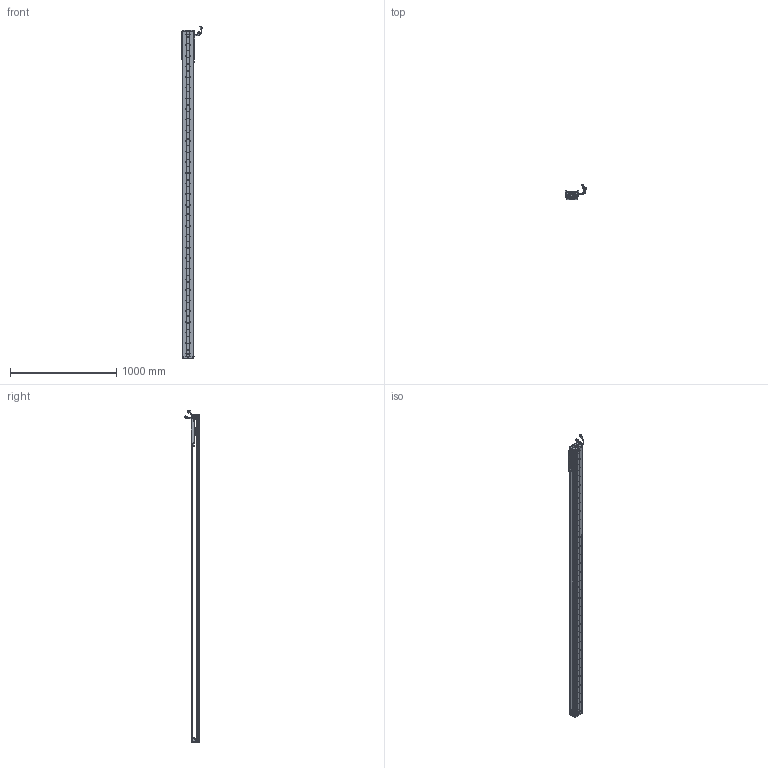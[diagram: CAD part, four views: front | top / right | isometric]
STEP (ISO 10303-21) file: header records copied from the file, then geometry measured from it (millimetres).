
FILE_DESCRIPTION (( 'STEP AP203' ), '1' );
FILE_NAME ('Z3-RY100D-1-L500-B-K.SLDASM_2750.step', '2021-05-17T02:52:54', ( '盈信电脑' ), ( '东莞市道滘镇水果街19号' ), 'SwSTEP 2.0', 'SolidWorks 2016', '' );
FILE_SCHEMA (( 'CONFIG_CONTROL_DESIGN' ));
Length unit declared in the file: millimetre
Products named in the file (36): 100-Z-臏賑輸盄裔(21遴); SCALE-Part-1; 覜茼ん672; 榋妏寠巭燃_暯_M2_2; HOLDER0; 140蚥薯蝶輸; Z-RY100D詩湍狟揤裔; SCALE; SEAL-Part-1; Z-RY100D詩湍奻揤裔; SCREW-M1.6-2; HARNESS-Part-1; 140雄赽晤鎢ん堤盄; PBU_SHEET; Z3-RY100-L500詩湍90mm遵_2750; LABEL; PSLH080_PSLF2; SCREW-M1.6-1; Z-100詩湍傷裔啣; SHIELDPLATE; COVER; SCREW-M1.6-3; HARNESS; SEAL; 080黍杅芛假蚾釱21遴; COVER-Part-1; Z3-RY100D-500-倰第菁釱_2750; Z-RY100D覜茼んえ; Z3-RY100D-1-L500-B-K.SLDASM_2750; Z3-RY100铝滑块（21款）; SCALE-Part-2; SCREW-M1.7-1; HARNESS-Part-2; LABEL-Part-1; SCREW-M1.6; SCREW-M1.7
Assembly tree (43 placements, depth 4):
  Z3-RY100D-1-L500-B-K.SLDASM_2750
    Z3-RY100D-500-倰第菁釱_2750
    Z3-RY100铝滑块（21款）
    PSLH080_PSLF2
      SCALE
        SCALE-Part-1
        SCALE-Part-2
      HARNESS
        HARNESS-Part-1
        HARNESS-Part-2
      LABEL
        LABEL-Part-1
      COVER
        COVER-Part-1
      SEAL
        SEAL-Part-1
      榋妏寠巭燃_暯_M2_2
      SHIELDPLATE
      SCREW-M1.7
      SCREW-M1.7-1
      PBU_SHEET
      SCREW-M1.6
      SCREW-M1.6-1
      SCREW-M1.6-2
      SCREW-M1.6-3
      HOLDER0
    080黍杅芛假蚾釱21遴
    Z-100詩湍傷裔啣  x2
    140蚥薯蝶輸  x2
    覜茼ん672  x3
    Z-RY100D覜茼んえ  x3
    100-Z-臏賑輸盄裔(21遴)
    140雄赽晤鎢ん堤盄
    Z3-RY100-L500詩湍90mm遵_2750
    Z-RY100D詩湍狟揤裔  x2
    Z-RY100D詩湍奻揤裔  x2
Bounding box: 205.79 x 136.11 x 3120.43 mm (x, y, z)
Volume: 5615961.6 mm3; surface area: 2220041 mm2
Topology: 38 solids, 38 shells, 3129 faces, 8611 edges, 5508 vertices
Faces by surface type: cylinder 1578, plane 1203, cone 226, torus 69, bspline 53
Entity records: 91845 total; most frequent: CARTESIAN_POINT 19209, DIRECTION 14869, ORIENTED_EDGE 14102, EDGE_CURVE 7051, AXIS2_PLACEMENT_3D 5616, VERTEX_POINT 4576, LINE 3637, VECTOR 3637
